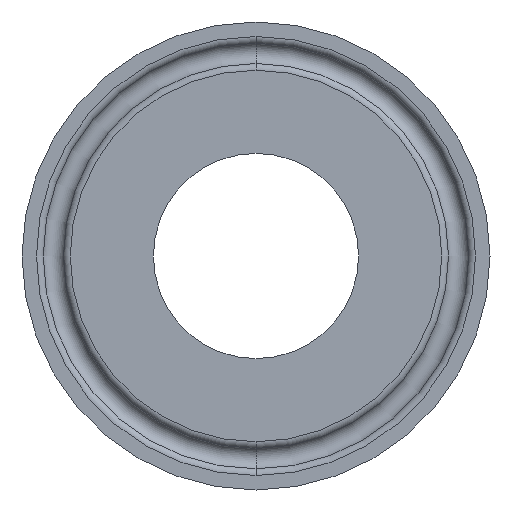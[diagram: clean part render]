
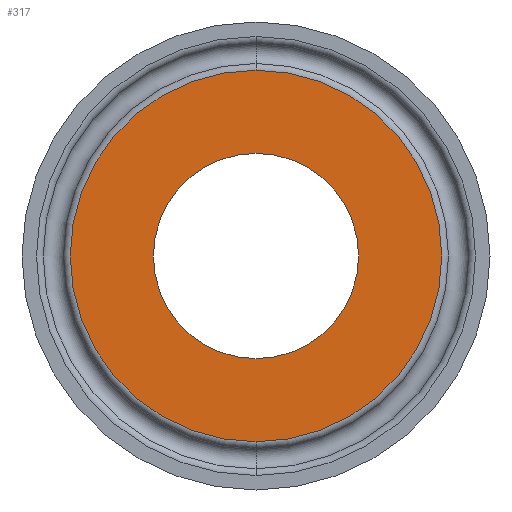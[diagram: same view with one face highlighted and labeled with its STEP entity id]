
A CAD part, front view. The second image highlights one B-rep face of the part: STEP entity #317.
In plain terms, the highlighted planar face has unit normal (0, -1, 0).
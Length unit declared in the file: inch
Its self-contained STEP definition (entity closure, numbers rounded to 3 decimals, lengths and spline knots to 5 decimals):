
#21 = CARTESIAN_POINT ( 'NONE',  ( 0., 0., -0.435 ) ) ;
#31 = CARTESIAN_POINT ( 'NONE',  ( 0., 0., 0.78742 ) ) ;
#32 = DIRECTION ( 'NONE',  ( 0., 0., 1. ) ) ;
#36 = CARTESIAN_POINT ( 'NONE',  ( 0., 0., 0. ) ) ;
#40 = CARTESIAN_POINT ( 'NONE',  ( 0., 0., 0. ) ) ;
#58 = DIRECTION ( 'NONE',  ( 0., 1., 0. ) ) ;
#60 = PLANE ( 'NONE',  #275 ) ;
#68 = DIRECTION ( 'NONE',  ( 0., 0., -1. ) ) ;
#69 = DIRECTION ( 'NONE',  ( 0., 0., -1. ) ) ;
#87 = AXIS2_PLACEMENT_3D ( 'NONE', #40, #339, #69 ) ;
#97 = AXIS2_PLACEMENT_3D ( 'NONE', #197, #515, #246 ) ;
#146 = CARTESIAN_POINT ( 'NONE',  ( 0., 0., 0. ) ) ;
#165 = CIRCLE ( 'NONE', #87, 0.435 ) ;
#166 = CIRCLE ( 'NONE', #97, 0.78742 ) ;
#171 = AXIS2_PLACEMENT_3D ( 'NONE', #36, #338, #68 ) ;
#189 = DIRECTION ( 'NONE',  ( 0., -1., 0. ) ) ;
#197 = CARTESIAN_POINT ( 'NONE',  ( 0., 0., 0. ) ) ;
#198 = AXIS2_PLACEMENT_3D ( 'NONE', #474, #189, #511 ) ;
#239 = FACE_BOUND ( 'NONE', #278, .T. ) ;
#246 = DIRECTION ( 'NONE',  ( 0., 0., -1. ) ) ;
#253 = FACE_OUTER_BOUND ( 'NONE', #271, .T. ) ;
#271 = EDGE_LOOP ( 'NONE', ( #355, #397 ) ) ;
#275 = AXIS2_PLACEMENT_3D ( 'NONE', #146, #58, #32 ) ;
#278 = EDGE_LOOP ( 'NONE', ( #411, #483 ) ) ;
#304 = CIRCLE ( 'NONE', #198, 0.435 ) ;
#307 = CIRCLE ( 'NONE', #171, 0.78742 ) ;
#317 = ADVANCED_FACE ( 'NONE', ( #239, #253 ), #60, .F. ) ;
#338 = DIRECTION ( 'NONE',  ( 0., -1., 0. ) ) ;
#339 = DIRECTION ( 'NONE',  ( 0., -1., 0. ) ) ;
#353 = VERTEX_POINT ( 'NONE', #21 ) ;
#355 = ORIENTED_EDGE ( 'NONE', *, *, #492, .T. ) ;
#380 = CARTESIAN_POINT ( 'NONE',  ( 0., 0., -0.78742 ) ) ;
#397 = ORIENTED_EDGE ( 'NONE', *, *, #533, .T. ) ;
#399 = VERTEX_POINT ( 'NONE', #31 ) ;
#411 = ORIENTED_EDGE ( 'NONE', *, *, #535, .F. ) ;
#425 = VERTEX_POINT ( 'NONE', #531 ) ;
#466 = VERTEX_POINT ( 'NONE', #380 ) ;
#472 = EDGE_CURVE ( 'NONE', #425, #353, #304, .T. ) ;
#474 = CARTESIAN_POINT ( 'NONE',  ( 0., 0., 0. ) ) ;
#483 = ORIENTED_EDGE ( 'NONE', *, *, #472, .F. ) ;
#492 = EDGE_CURVE ( 'NONE', #466, #399, #307, .T. ) ;
#511 = DIRECTION ( 'NONE',  ( 0., 0., -1. ) ) ;
#515 = DIRECTION ( 'NONE',  ( 0., -1., 0. ) ) ;
#531 = CARTESIAN_POINT ( 'NONE',  ( 0., 0., 0.435 ) ) ;
#533 = EDGE_CURVE ( 'NONE', #399, #466, #166, .T. ) ;
#535 = EDGE_CURVE ( 'NONE', #353, #425, #165, .T. ) ;
